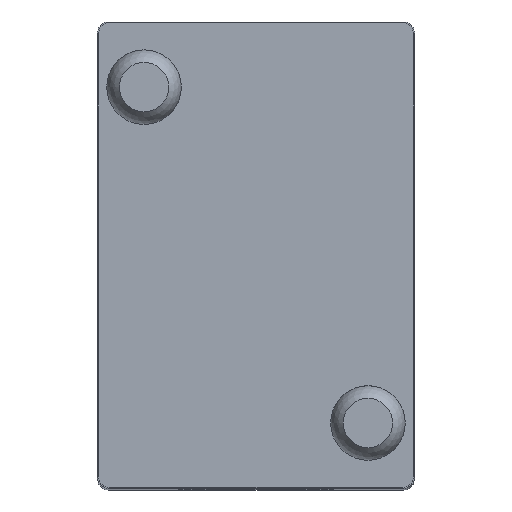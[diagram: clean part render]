
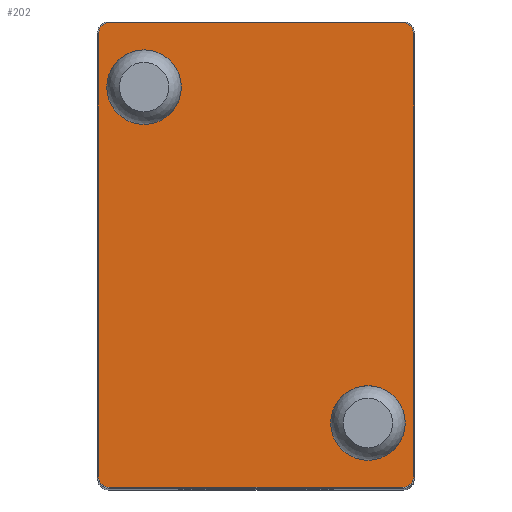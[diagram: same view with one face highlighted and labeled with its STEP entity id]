
A CAD part, top view. The second image highlights one B-rep face of the part: STEP entity #202.
In plain terms, the highlighted planar face has unit normal (0, 0, 1).
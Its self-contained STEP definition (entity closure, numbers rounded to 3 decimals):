
#202 = ADVANCED_FACE( '', ( #449, #450, #451 ), #452, .T. );
#449 = FACE_BOUND( '', #716, .T. );
#450 = FACE_BOUND( '', #717, .T. );
#451 = FACE_OUTER_BOUND( '', #718, .T. );
#452 = PLANE( '', #719 );
#716 = EDGE_LOOP( '', ( #1210 ) );
#717 = EDGE_LOOP( '', ( #1211 ) );
#718 = EDGE_LOOP( '', ( #1212, #1213, #1214, #1215, #1216, #1217, #1218, #1219 ) );
#719 = AXIS2_PLACEMENT_3D( '', #1220, #1221, #1222 );
#1210 = ORIENTED_EDGE( '', *, *, #1536, .T. );
#1211 = ORIENTED_EDGE( '', *, *, #1532, .T. );
#1212 = ORIENTED_EDGE( '', *, *, #1389, .T. );
#1213 = ORIENTED_EDGE( '', *, *, #1511, .T. );
#1214 = ORIENTED_EDGE( '', *, *, #1508, .T. );
#1215 = ORIENTED_EDGE( '', *, *, #1526, .T. );
#1216 = ORIENTED_EDGE( '', *, *, #1537, .T. );
#1217 = ORIENTED_EDGE( '', *, *, #1538, .T. );
#1218 = ORIENTED_EDGE( '', *, *, #1384, .T. );
#1219 = ORIENTED_EDGE( '', *, *, #1446, .T. );
#1220 = CARTESIAN_POINT( '', ( -15.7, 23.7, 10. ) );
#1221 = DIRECTION( '', ( 0., 0., 1. ) );
#1222 = DIRECTION( '', ( 1., 0., 0. ) );
#1384 = EDGE_CURVE( '', #1622, #1620, #1623, .T. );
#1389 = EDGE_CURVE( '', #1631, #1629, #1632, .T. );
#1446 = EDGE_CURVE( '', #1620, #1631, #1724, .T. );
#1508 = EDGE_CURVE( '', #1812, #1810, #1813, .T. );
#1511 = EDGE_CURVE( '', #1629, #1812, #1816, .T. );
#1526 = EDGE_CURVE( '', #1810, #1834, #1836, .T. );
#1532 = EDGE_CURVE( '', #1843, #1843, #1844, .T. );
#1536 = EDGE_CURVE( '', #1848, #1848, #1849, .T. );
#1537 = EDGE_CURVE( '', #1834, #1850, #1851, .T. );
#1538 = EDGE_CURVE( '', #1850, #1622, #1852, .T. );
#1620 = VERTEX_POINT( '', #1953 );
#1622 = VERTEX_POINT( '', #1956 );
#1623 = CIRCLE( '', #1957, 1.2 );
#1629 = VERTEX_POINT( '', #1964 );
#1631 = VERTEX_POINT( '', #1967 );
#1632 = CIRCLE( '', #1968, 1.2 );
#1724 = LINE( '', #2082, #2083 );
#1810 = VERTEX_POINT( '', #2184 );
#1812 = VERTEX_POINT( '', #2187 );
#1813 = CIRCLE( '', #2188, 1.2 );
#1816 = LINE( '', #2192, #2193 );
#1834 = VERTEX_POINT( '', #2214 );
#1836 = LINE( '', #2217, #2218 );
#1843 = VERTEX_POINT( '', #2226 );
#1844 = CIRCLE( '', #2227, 4. );
#1848 = VERTEX_POINT( '', #2232 );
#1849 = CIRCLE( '', #2233, 4. );
#1850 = VERTEX_POINT( '', #2234 );
#1851 = CIRCLE( '', #2235, 1.2 );
#1852 = LINE( '', #2236, #2237 );
#1953 = CARTESIAN_POINT( '', ( 15.7, 24.9, 10. ) );
#1956 = CARTESIAN_POINT( '', ( 16.9, 23.7, 10. ) );
#1957 = AXIS2_PLACEMENT_3D( '', #2313, #2314, #2315 );
#1964 = CARTESIAN_POINT( '', ( -16.9, 23.7, 10. ) );
#1967 = CARTESIAN_POINT( '', ( -15.7, 24.9, 10. ) );
#1968 = AXIS2_PLACEMENT_3D( '', #2321, #2322, #2323 );
#2082 = CARTESIAN_POINT( '', ( 15.7, 24.9, 10. ) );
#2083 = VECTOR( '', #2415, 1000. );
#2184 = CARTESIAN_POINT( '', ( -15.7, -24.9, 10. ) );
#2187 = CARTESIAN_POINT( '', ( -16.9, -23.7, 10. ) );
#2188 = AXIS2_PLACEMENT_3D( '', #2498, #2499, #2500 );
#2192 = CARTESIAN_POINT( '', ( -16.9, 23.7, 10. ) );
#2193 = VECTOR( '', #2502, 1000. );
#2214 = CARTESIAN_POINT( '', ( 15.7, -24.9, 10. ) );
#2217 = CARTESIAN_POINT( '', ( -15.7, -24.9, 10. ) );
#2218 = VECTOR( '', #2519, 1000. );
#2226 = CARTESIAN_POINT( '', ( -16., 18., 10. ) );
#2227 = AXIS2_PLACEMENT_3D( '', #2524, #2525, #2526 );
#2232 = CARTESIAN_POINT( '', ( 8., -18., 10. ) );
#2233 = AXIS2_PLACEMENT_3D( '', #2528, #2529, #2530 );
#2234 = CARTESIAN_POINT( '', ( 16.9, -23.7, 10. ) );
#2235 = AXIS2_PLACEMENT_3D( '', #2531, #2532, #2533 );
#2236 = CARTESIAN_POINT( '', ( 16.9, -23.7, 10. ) );
#2237 = VECTOR( '', #2534, 1000. );
#2313 = CARTESIAN_POINT( '', ( 15.7, 23.7, 10. ) );
#2314 = DIRECTION( '', ( 0., 0., 1. ) );
#2315 = DIRECTION( '', ( 1., 0., 0. ) );
#2321 = CARTESIAN_POINT( '', ( -15.7, 23.7, 10. ) );
#2322 = DIRECTION( '', ( 0., 0., 1. ) );
#2323 = DIRECTION( '', ( 1., 0., 0. ) );
#2415 = DIRECTION( '', ( -1., 0., 0. ) );
#2498 = CARTESIAN_POINT( '', ( -15.7, -23.7, 10. ) );
#2499 = DIRECTION( '', ( 0., 0., 1. ) );
#2500 = DIRECTION( '', ( 1., 0., 0. ) );
#2502 = DIRECTION( '', ( 0., -1., 0. ) );
#2519 = DIRECTION( '', ( 1., 0., 0. ) );
#2524 = CARTESIAN_POINT( '', ( -12., 18., 10. ) );
#2525 = DIRECTION( '', ( 0., 0., -1. ) );
#2526 = DIRECTION( '', ( -1., 0., 0. ) );
#2528 = CARTESIAN_POINT( '', ( 12., -18., 10. ) );
#2529 = DIRECTION( '', ( 0., 0., -1. ) );
#2530 = DIRECTION( '', ( -1., 0., 0. ) );
#2531 = CARTESIAN_POINT( '', ( 15.7, -23.7, 10. ) );
#2532 = DIRECTION( '', ( 0., 0., 1. ) );
#2533 = DIRECTION( '', ( 1., 0., 0. ) );
#2534 = DIRECTION( '', ( 0., 1., 0. ) );
